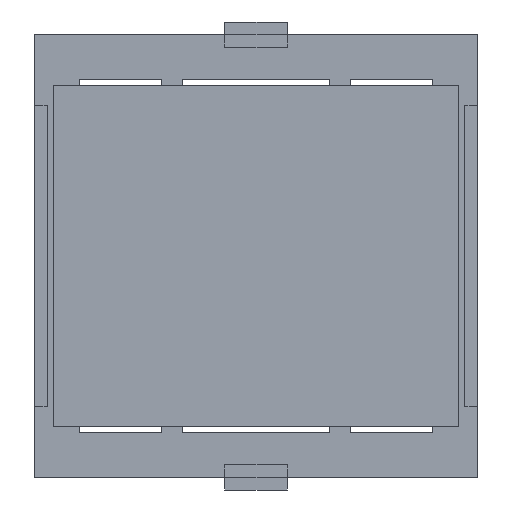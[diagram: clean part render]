
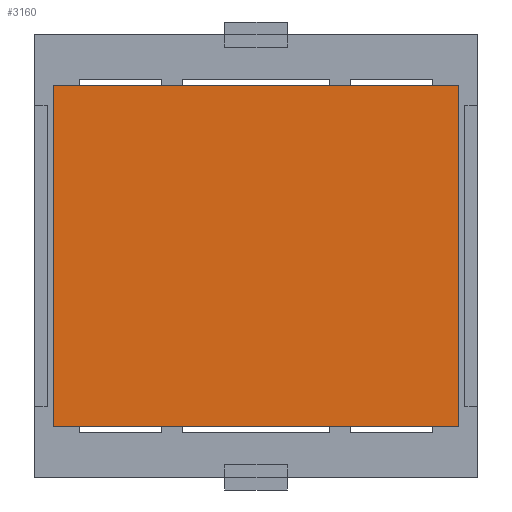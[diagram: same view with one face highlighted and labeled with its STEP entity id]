
A CAD part, front view. The second image highlights one B-rep face of the part: STEP entity #3160.
In plain terms, the highlighted planar face has unit normal (0, -1, 0).
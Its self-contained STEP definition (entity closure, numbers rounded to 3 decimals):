
#172 = CARTESIAN_POINT ( 'NONE',  ( -16.129, -0.127, -13.589 ) ) ;
#198 = VECTOR ( 'NONE', #5038, 1000. ) ;
#247 = VECTOR ( 'NONE', #4498, 1000. ) ;
#539 = DIRECTION ( 'NONE',  ( 0., 0., 1. ) ) ;
#655 = CARTESIAN_POINT ( 'NONE',  ( 16.129, -0.127, -13.589 ) ) ;
#676 = CARTESIAN_POINT ( 'NONE',  ( -16.129, -0.127, 13.589 ) ) ;
#759 = ORIENTED_EDGE ( 'NONE', *, *, #3887, .F. ) ;
#926 = VERTEX_POINT ( 'NONE', #5993 ) ;
#1021 = LINE ( 'NONE', #3838, #5083 ) ;
#1112 = EDGE_LOOP ( 'NONE', ( #759, #1636, #5935, #1257 ) ) ;
#1257 = ORIENTED_EDGE ( 'NONE', *, *, #1364, .F. ) ;
#1364 = EDGE_CURVE ( 'NONE', #926, #4467, #5137, .T. ) ;
#1630 = LINE ( 'NONE', #655, #4600 ) ;
#1636 = ORIENTED_EDGE ( 'NONE', *, *, #2390, .F. ) ;
#1673 = CARTESIAN_POINT ( 'NONE',  ( 16.129, -0.127, 13.589 ) ) ;
#1702 = DIRECTION ( 'NONE',  ( 0., 1., 0. ) ) ;
#2097 = LINE ( 'NONE', #172, #247 ) ;
#2390 = EDGE_CURVE ( 'NONE', #3065, #2449, #2097, .T. ) ;
#2449 = VERTEX_POINT ( 'NONE', #3206 ) ;
#2699 = CARTESIAN_POINT ( 'NONE',  ( -16.129, -0.127, 13.589 ) ) ;
#3065 = VERTEX_POINT ( 'NONE', #3331 ) ;
#3160 = ADVANCED_FACE ( 'NONE', ( #4998 ), #5503, .F. ) ;
#3206 = CARTESIAN_POINT ( 'NONE',  ( -16.129, -0.127, -13.589 ) ) ;
#3331 = CARTESIAN_POINT ( 'NONE',  ( 16.129, -0.127, -13.589 ) ) ;
#3586 = AXIS2_PLACEMENT_3D ( 'NONE', #676, #1702, #4006 ) ;
#3838 = CARTESIAN_POINT ( 'NONE',  ( -16.129, -0.127, -13.589 ) ) ;
#3887 = EDGE_CURVE ( 'NONE', #2449, #926, #1021, .T. ) ;
#4006 = DIRECTION ( 'NONE',  ( 0., 0., 1. ) ) ;
#4018 = DIRECTION ( 'NONE',  ( 0., 0., -1. ) ) ;
#4467 = VERTEX_POINT ( 'NONE', #1673 ) ;
#4498 = DIRECTION ( 'NONE',  ( -1., 0., 0. ) ) ;
#4600 = VECTOR ( 'NONE', #4018, 1000. ) ;
#4850 = EDGE_CURVE ( 'NONE', #4467, #3065, #1630, .T. ) ;
#4998 = FACE_OUTER_BOUND ( 'NONE', #1112, .T. ) ;
#5038 = DIRECTION ( 'NONE',  ( 1., 0., 0. ) ) ;
#5083 = VECTOR ( 'NONE', #539, 1000. ) ;
#5137 = LINE ( 'NONE', #2699, #198 ) ;
#5503 = PLANE ( 'NONE',  #3586 ) ;
#5935 = ORIENTED_EDGE ( 'NONE', *, *, #4850, .F. ) ;
#5993 = CARTESIAN_POINT ( 'NONE',  ( -16.129, -0.127, 13.589 ) ) ;
